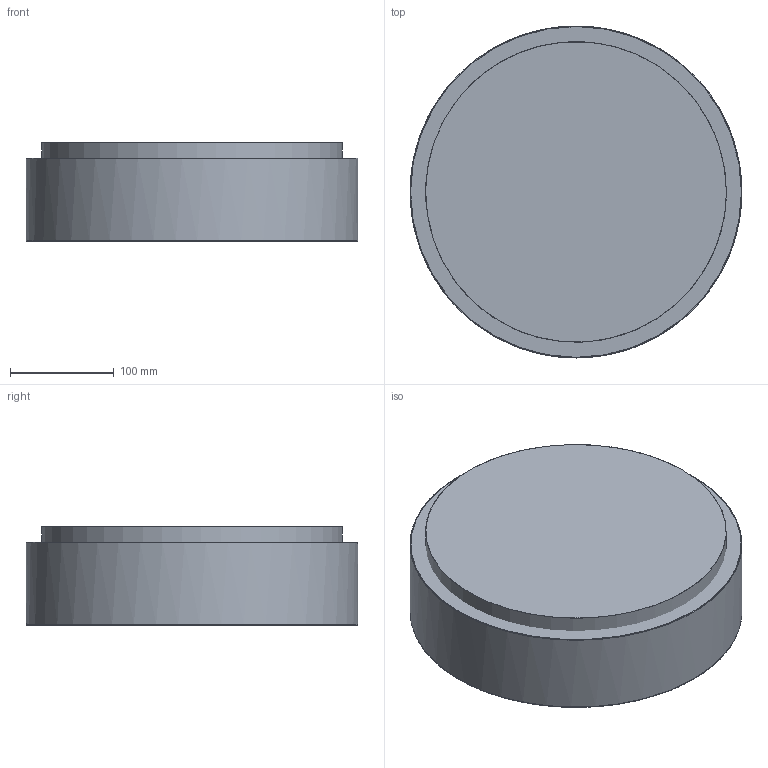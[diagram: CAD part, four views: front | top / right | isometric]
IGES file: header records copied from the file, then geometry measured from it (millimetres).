
Global section: file name: C:\Users\EQUIPO\Desktop\COLECCIONES ACB MODELADAS 3D OK\DINS\dins-395-32.igs; native system: Rhinoceros ( Oct  8 2013 ); preprocessor: Trout Lake IGES 012 Oct  8 2013; date: 190201.181536; units: millimetre
Bounding box: 320 x 320 x 95 mm (x, y, z)
Surface area: 528091 mm2 (no closed solid volume)
Topology: 0 solids, 0 shells, 12 faces, 96 edges, 91 vertices
Faces by surface type: bspline 12
